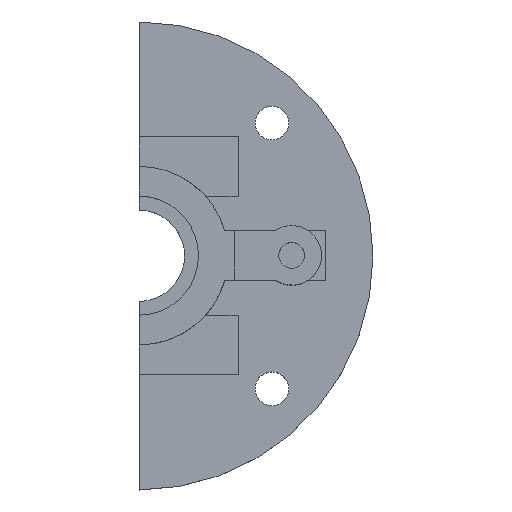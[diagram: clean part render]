
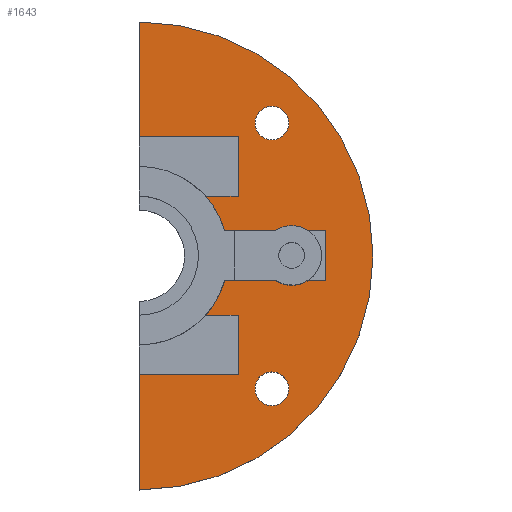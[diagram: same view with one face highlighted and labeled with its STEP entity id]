
A CAD part, top view. The second image highlights one B-rep face of the part: STEP entity #1643.
In plain terms, the highlighted planar face has unit normal (0, 0, 1).
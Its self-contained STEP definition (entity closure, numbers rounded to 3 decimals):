
#22 = VERTEX_POINT('',#23);
#23 = CARTESIAN_POINT('',(4.5,0.,2.7));
#32 = CYLINDRICAL_SURFACE('',#33,4.5);
#33 = AXIS2_PLACEMENT_3D('',#34,#35,#36);
#34 = CARTESIAN_POINT('',(0.,0.,1.2));
#35 = DIRECTION('',(0.,0.,1.));
#36 = DIRECTION('',(1.,0.,-0.));
#44 = CYLINDRICAL_SURFACE('',#45,4.5);
#45 = AXIS2_PLACEMENT_3D('',#46,#47,#48);
#46 = CARTESIAN_POINT('',(0.,0.,1.2));
#47 = DIRECTION('',(0.,0.,1.));
#48 = DIRECTION('',(1.,0.,-0.));
#56 = EDGE_CURVE('',#22,#57,#59,.T.);
#57 = VERTEX_POINT('',#58);
#58 = CARTESIAN_POINT('',(0.,4.5,2.7));
#59 = SURFACE_CURVE('',#60,(#65,#72),.PCURVE_S1.);
#60 = CIRCLE('',#61,4.5);
#61 = AXIS2_PLACEMENT_3D('',#62,#63,#64);
#62 = CARTESIAN_POINT('',(0.,0.,2.7));
#63 = DIRECTION('',(0.,0.,1.));
#64 = DIRECTION('',(1.,0.,-0.));
#65 = PCURVE('',#32,#66);
#66 = DEFINITIONAL_REPRESENTATION('',(#67),#71);
#67 = LINE('',#68,#69);
#68 = CARTESIAN_POINT('',(0.,1.5));
#69 = VECTOR('',#70,1.);
#70 = DIRECTION('',(1.,0.));
#71 = ( GEOMETRIC_REPRESENTATION_CONTEXT(2) 
PARAMETRIC_REPRESENTATION_CONTEXT() REPRESENTATION_CONTEXT('2D SPACE',''
  ) );
#72 = PCURVE('',#73,#78);
#73 = PLANE('',#74);
#74 = AXIS2_PLACEMENT_3D('',#75,#76,#77);
#75 = CARTESIAN_POINT('',(0.,0.,2.7));
#76 = DIRECTION('',(0.,0.,1.));
#77 = DIRECTION('',(1.,0.,-0.));
#78 = DEFINITIONAL_REPRESENTATION('',(#79),#83);
#79 = CIRCLE('',#80,4.5);
#80 = AXIS2_PLACEMENT_2D('',#81,#82);
#81 = CARTESIAN_POINT('',(0.,0.));
#82 = DIRECTION('',(1.,0.));
#83 = ( GEOMETRIC_REPRESENTATION_CONTEXT(2) 
PARAMETRIC_REPRESENTATION_CONTEXT() REPRESENTATION_CONTEXT('2D SPACE',''
  ) );
#100 = PLANE('',#101);
#101 = AXIS2_PLACEMENT_3D('',#102,#103,#104);
#102 = CARTESIAN_POINT('',(0.,-50.,-50.));
#103 = DIRECTION('',(1.,0.,0.));
#104 = DIRECTION('',(0.,0.,1.));
#303 = EDGE_CURVE('',#304,#22,#306,.T.);
#304 = VERTEX_POINT('',#305);
#305 = CARTESIAN_POINT('',(0.,-4.5,2.7));
#306 = SURFACE_CURVE('',#307,(#312,#319),.PCURVE_S1.);
#307 = CIRCLE('',#308,4.5);
#308 = AXIS2_PLACEMENT_3D('',#309,#310,#311);
#309 = CARTESIAN_POINT('',(0.,0.,2.7));
#310 = DIRECTION('',(0.,0.,1.));
#311 = DIRECTION('',(1.,0.,-0.));
#312 = PCURVE('',#44,#313);
#313 = DEFINITIONAL_REPRESENTATION('',(#314),#318);
#314 = LINE('',#315,#316);
#315 = CARTESIAN_POINT('',(0.,1.5));
#316 = VECTOR('',#317,1.);
#317 = DIRECTION('',(1.,0.));
#318 = ( GEOMETRIC_REPRESENTATION_CONTEXT(2) 
PARAMETRIC_REPRESENTATION_CONTEXT() REPRESENTATION_CONTEXT('2D SPACE',''
  ) );
#319 = PCURVE('',#73,#320);
#320 = DEFINITIONAL_REPRESENTATION('',(#321),#325);
#321 = CIRCLE('',#322,4.5);
#322 = AXIS2_PLACEMENT_2D('',#323,#324);
#323 = CARTESIAN_POINT('',(0.,0.));
#324 = DIRECTION('',(1.,0.));
#325 = ( GEOMETRIC_REPRESENTATION_CONTEXT(2) 
PARAMETRIC_REPRESENTATION_CONTEXT() REPRESENTATION_CONTEXT('2D SPACE',''
  ) );
#417 = PLANE('',#418);
#418 = AXIS2_PLACEMENT_3D('',#419,#420,#421);
#419 = CARTESIAN_POINT('',(0.,-50.,-50.));
#420 = DIRECTION('',(1.,0.,0.));
#421 = DIRECTION('',(0.,0.,1.));
#912 = EDGE_CURVE('',#57,#913,#915,.T.);
#913 = VERTEX_POINT('',#914);
#914 = CARTESIAN_POINT('',(0.,11.8,2.7));
#915 = SURFACE_CURVE('',#916,(#920,#926),.PCURVE_S1.);
#916 = LINE('',#917,#918);
#917 = CARTESIAN_POINT('',(0.,-25.,2.7));
#918 = VECTOR('',#919,1.);
#919 = DIRECTION('',(0.,1.,0.));
#920 = PCURVE('',#100,#921);
#921 = DEFINITIONAL_REPRESENTATION('',(#922),#925);
#922 = B_SPLINE_CURVE_WITH_KNOTS('',1,(#923,#924),.UNSPECIFIED.,.F.,.F.,
  (2,2),(13.2,36.8),.PIECEWISE_BEZIER_KNOTS.);
#923 = CARTESIAN_POINT('',(52.7,-38.2));
#924 = CARTESIAN_POINT('',(52.7,-61.8));
#925 = ( GEOMETRIC_REPRESENTATION_CONTEXT(2) 
PARAMETRIC_REPRESENTATION_CONTEXT() REPRESENTATION_CONTEXT('2D SPACE',''
  ) );
#926 = PCURVE('',#73,#927);
#927 = DEFINITIONAL_REPRESENTATION('',(#928),#931);
#928 = B_SPLINE_CURVE_WITH_KNOTS('',1,(#929,#930),.UNSPECIFIED.,.F.,.F.,
  (2,2),(13.2,36.8),.PIECEWISE_BEZIER_KNOTS.);
#929 = CARTESIAN_POINT('',(0.,-11.8));
#930 = CARTESIAN_POINT('',(0.,11.8));
#931 = ( GEOMETRIC_REPRESENTATION_CONTEXT(2) 
PARAMETRIC_REPRESENTATION_CONTEXT() REPRESENTATION_CONTEXT('2D SPACE',''
  ) );
#1426 = CYLINDRICAL_SURFACE('',#1427,11.8);
#1427 = AXIS2_PLACEMENT_3D('',#1428,#1429,#1430);
#1428 = CARTESIAN_POINT('',(0.,0.,1.2));
#1429 = DIRECTION('',(0.,0.,1.));
#1430 = DIRECTION('',(1.,0.,-0.));
#1643 = ADVANCED_FACE('',(#1644,#1721,#1752),#73,.T.);
#1644 = FACE_BOUND('',#1645,.T.);
#1645 = EDGE_LOOP('',(#1646,#1677,#1699,#1700,#1701,#1702));
#1646 = ORIENTED_EDGE('',*,*,#1647,.T.);
#1647 = EDGE_CURVE('',#1648,#1650,#1652,.T.);
#1648 = VERTEX_POINT('',#1649);
#1649 = CARTESIAN_POINT('',(0.,-11.8,2.7));
#1650 = VERTEX_POINT('',#1651);
#1651 = CARTESIAN_POINT('',(11.8,0.,2.7));
#1652 = SURFACE_CURVE('',#1653,(#1658,#1665),.PCURVE_S1.);
#1653 = CIRCLE('',#1654,11.8);
#1654 = AXIS2_PLACEMENT_3D('',#1655,#1656,#1657);
#1655 = CARTESIAN_POINT('',(0.,0.,2.7));
#1656 = DIRECTION('',(0.,0.,1.));
#1657 = DIRECTION('',(1.,0.,-0.));
#1658 = PCURVE('',#73,#1659);
#1659 = DEFINITIONAL_REPRESENTATION('',(#1660),#1664);
#1660 = CIRCLE('',#1661,11.8);
#1661 = AXIS2_PLACEMENT_2D('',#1662,#1663);
#1662 = CARTESIAN_POINT('',(0.,0.));
#1663 = DIRECTION('',(1.,0.));
#1664 = ( GEOMETRIC_REPRESENTATION_CONTEXT(2) 
PARAMETRIC_REPRESENTATION_CONTEXT() REPRESENTATION_CONTEXT('2D SPACE',''
  ) );
#1665 = PCURVE('',#1666,#1671);
#1666 = CYLINDRICAL_SURFACE('',#1667,11.8);
#1667 = AXIS2_PLACEMENT_3D('',#1668,#1669,#1670);
#1668 = CARTESIAN_POINT('',(0.,0.,1.2));
#1669 = DIRECTION('',(0.,0.,1.));
#1670 = DIRECTION('',(1.,0.,-0.));
#1671 = DEFINITIONAL_REPRESENTATION('',(#1672),#1676);
#1672 = LINE('',#1673,#1674);
#1673 = CARTESIAN_POINT('',(0.,1.5));
#1674 = VECTOR('',#1675,1.);
#1675 = DIRECTION('',(1.,0.));
#1676 = ( GEOMETRIC_REPRESENTATION_CONTEXT(2) 
PARAMETRIC_REPRESENTATION_CONTEXT() REPRESENTATION_CONTEXT('2D SPACE',''
  ) );
#1677 = ORIENTED_EDGE('',*,*,#1678,.T.);
#1678 = EDGE_CURVE('',#1650,#913,#1679,.T.);
#1679 = SURFACE_CURVE('',#1680,(#1685,#1692),.PCURVE_S1.);
#1680 = CIRCLE('',#1681,11.8);
#1681 = AXIS2_PLACEMENT_3D('',#1682,#1683,#1684);
#1682 = CARTESIAN_POINT('',(0.,0.,2.7));
#1683 = DIRECTION('',(0.,0.,1.));
#1684 = DIRECTION('',(1.,0.,-0.));
#1685 = PCURVE('',#73,#1686);
#1686 = DEFINITIONAL_REPRESENTATION('',(#1687),#1691);
#1687 = CIRCLE('',#1688,11.8);
#1688 = AXIS2_PLACEMENT_2D('',#1689,#1690);
#1689 = CARTESIAN_POINT('',(0.,0.));
#1690 = DIRECTION('',(1.,0.));
#1691 = ( GEOMETRIC_REPRESENTATION_CONTEXT(2) 
PARAMETRIC_REPRESENTATION_CONTEXT() REPRESENTATION_CONTEXT('2D SPACE',''
  ) );
#1692 = PCURVE('',#1426,#1693);
#1693 = DEFINITIONAL_REPRESENTATION('',(#1694),#1698);
#1694 = LINE('',#1695,#1696);
#1695 = CARTESIAN_POINT('',(0.,1.5));
#1696 = VECTOR('',#1697,1.);
#1697 = DIRECTION('',(1.,0.));
#1698 = ( GEOMETRIC_REPRESENTATION_CONTEXT(2) 
PARAMETRIC_REPRESENTATION_CONTEXT() REPRESENTATION_CONTEXT('2D SPACE',''
  ) );
#1699 = ORIENTED_EDGE('',*,*,#912,.F.);
#1700 = ORIENTED_EDGE('',*,*,#56,.F.);
#1701 = ORIENTED_EDGE('',*,*,#303,.F.);
#1702 = ORIENTED_EDGE('',*,*,#1703,.F.);
#1703 = EDGE_CURVE('',#1648,#304,#1704,.T.);
#1704 = SURFACE_CURVE('',#1705,(#1709,#1715),.PCURVE_S1.);
#1705 = LINE('',#1706,#1707);
#1706 = CARTESIAN_POINT('',(0.,-25.,2.7));
#1707 = VECTOR('',#1708,1.);
#1708 = DIRECTION('',(0.,1.,0.));
#1709 = PCURVE('',#73,#1710);
#1710 = DEFINITIONAL_REPRESENTATION('',(#1711),#1714);
#1711 = B_SPLINE_CURVE_WITH_KNOTS('',1,(#1712,#1713),.UNSPECIFIED.,.F.,
  .F.,(2,2),(13.2,36.8),.PIECEWISE_BEZIER_KNOTS.);
#1712 = CARTESIAN_POINT('',(0.,-11.8));
#1713 = CARTESIAN_POINT('',(0.,11.8));
#1714 = ( GEOMETRIC_REPRESENTATION_CONTEXT(2) 
PARAMETRIC_REPRESENTATION_CONTEXT() REPRESENTATION_CONTEXT('2D SPACE',''
  ) );
#1715 = PCURVE('',#417,#1716);
#1716 = DEFINITIONAL_REPRESENTATION('',(#1717),#1720);
#1717 = B_SPLINE_CURVE_WITH_KNOTS('',1,(#1718,#1719),.UNSPECIFIED.,.F.,
  .F.,(2,2),(13.2,36.8),.PIECEWISE_BEZIER_KNOTS.);
#1718 = CARTESIAN_POINT('',(52.7,-38.2));
#1719 = CARTESIAN_POINT('',(52.7,-61.8));
#1720 = ( GEOMETRIC_REPRESENTATION_CONTEXT(2) 
PARAMETRIC_REPRESENTATION_CONTEXT() REPRESENTATION_CONTEXT('2D SPACE',''
  ) );
#1721 = FACE_BOUND('',#1722,.T.);
#1722 = EDGE_LOOP('',(#1723));
#1723 = ORIENTED_EDGE('',*,*,#1724,.F.);
#1724 = EDGE_CURVE('',#1725,#1725,#1727,.T.);
#1725 = VERTEX_POINT('',#1726);
#1726 = CARTESIAN_POINT('',(7.55,-6.7,2.7));
#1727 = SURFACE_CURVE('',#1728,(#1733,#1740),.PCURVE_S1.);
#1728 = CIRCLE('',#1729,0.85);
#1729 = AXIS2_PLACEMENT_3D('',#1730,#1731,#1732);
#1730 = CARTESIAN_POINT('',(6.7,-6.7,2.7));
#1731 = DIRECTION('',(0.,0.,1.));
#1732 = DIRECTION('',(1.,0.,-0.));
#1733 = PCURVE('',#73,#1734);
#1734 = DEFINITIONAL_REPRESENTATION('',(#1735),#1739);
#1735 = CIRCLE('',#1736,0.85);
#1736 = AXIS2_PLACEMENT_2D('',#1737,#1738);
#1737 = CARTESIAN_POINT('',(6.7,-6.7));
#1738 = DIRECTION('',(1.,0.));
#1739 = ( GEOMETRIC_REPRESENTATION_CONTEXT(2) 
PARAMETRIC_REPRESENTATION_CONTEXT() REPRESENTATION_CONTEXT('2D SPACE',''
  ) );
#1740 = PCURVE('',#1741,#1746);
#1741 = CYLINDRICAL_SURFACE('',#1742,0.85);
#1742 = AXIS2_PLACEMENT_3D('',#1743,#1744,#1745);
#1743 = CARTESIAN_POINT('',(6.7,-6.7,1.19));
#1744 = DIRECTION('',(0.,0.,1.));
#1745 = DIRECTION('',(1.,0.,-0.));
#1746 = DEFINITIONAL_REPRESENTATION('',(#1747),#1751);
#1747 = LINE('',#1748,#1749);
#1748 = CARTESIAN_POINT('',(0.,1.51));
#1749 = VECTOR('',#1750,1.);
#1750 = DIRECTION('',(1.,0.));
#1751 = ( GEOMETRIC_REPRESENTATION_CONTEXT(2) 
PARAMETRIC_REPRESENTATION_CONTEXT() REPRESENTATION_CONTEXT('2D SPACE',''
  ) );
#1752 = FACE_BOUND('',#1753,.T.);
#1753 = EDGE_LOOP('',(#1754));
#1754 = ORIENTED_EDGE('',*,*,#1755,.F.);
#1755 = EDGE_CURVE('',#1756,#1756,#1758,.T.);
#1756 = VERTEX_POINT('',#1757);
#1757 = CARTESIAN_POINT('',(7.55,6.7,2.7));
#1758 = SURFACE_CURVE('',#1759,(#1764,#1771),.PCURVE_S1.);
#1759 = CIRCLE('',#1760,0.85);
#1760 = AXIS2_PLACEMENT_3D('',#1761,#1762,#1763);
#1761 = CARTESIAN_POINT('',(6.7,6.7,2.7));
#1762 = DIRECTION('',(0.,0.,1.));
#1763 = DIRECTION('',(1.,0.,-0.));
#1764 = PCURVE('',#73,#1765);
#1765 = DEFINITIONAL_REPRESENTATION('',(#1766),#1770);
#1766 = CIRCLE('',#1767,0.85);
#1767 = AXIS2_PLACEMENT_2D('',#1768,#1769);
#1768 = CARTESIAN_POINT('',(6.7,6.7));
#1769 = DIRECTION('',(1.,0.));
#1770 = ( GEOMETRIC_REPRESENTATION_CONTEXT(2) 
PARAMETRIC_REPRESENTATION_CONTEXT() REPRESENTATION_CONTEXT('2D SPACE',''
  ) );
#1771 = PCURVE('',#1772,#1777);
#1772 = CYLINDRICAL_SURFACE('',#1773,0.85);
#1773 = AXIS2_PLACEMENT_3D('',#1774,#1775,#1776);
#1774 = CARTESIAN_POINT('',(6.7,6.7,1.19));
#1775 = DIRECTION('',(0.,0.,1.));
#1776 = DIRECTION('',(1.,0.,-0.));
#1777 = DEFINITIONAL_REPRESENTATION('',(#1778),#1782);
#1778 = LINE('',#1779,#1780);
#1779 = CARTESIAN_POINT('',(0.,1.51));
#1780 = VECTOR('',#1781,1.);
#1781 = DIRECTION('',(1.,0.));
#1782 = ( GEOMETRIC_REPRESENTATION_CONTEXT(2) 
PARAMETRIC_REPRESENTATION_CONTEXT() REPRESENTATION_CONTEXT('2D SPACE',''
  ) );
